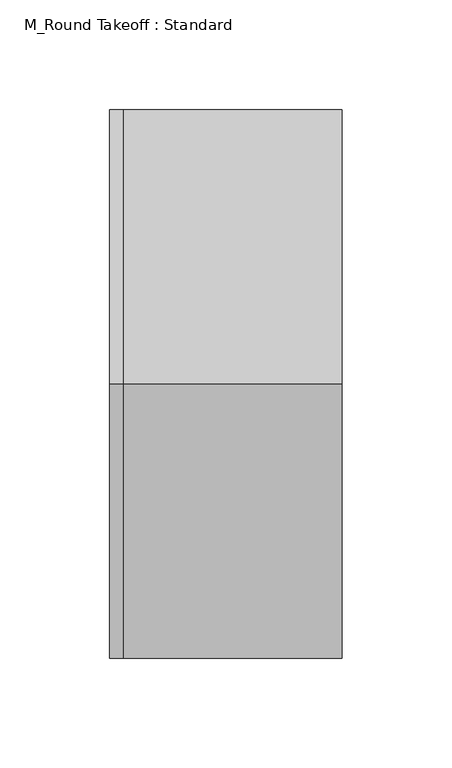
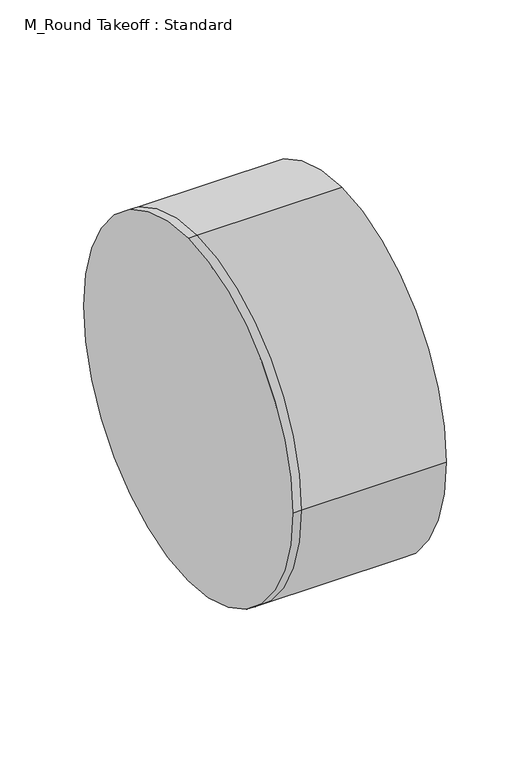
"""IFC4 building model written with IfcOpenShell, lengths in millimetres: duct fitting geometry, M_Round Takeoff : Standard."""

from ifc_helpers import new_model, si_unit, frame, origin, place, context, project, spatial, circle_curve, source, transform, mapped, element, save
from ifc_brep_helpers import plane_surface, cylinder_surface, advanced_brep


def m_round_takeoff_standard_ce92a222(model_context):
    return source(origin(), model_context, "Body", "AdvancedBrep", [
        advanced_brep(
        [(-6.096, 0.0, 125.0), (-6.096, 125.0, 0.0), (-6.096, 0.0, -125.0), (-6.096, -125.0, 0.0), (0.0, 0.0, 125.0), (0.0, 125.0, 0.0), (0.0, 0.0, -125.0), (0.0, -125.0, 0.0), (100.0, 0.0, 125.0), (100.0, -125.0, 0.0), (100.0, 0.0, -125.0), (100.0, 125.0, 0.0)],
        [
            (0, 1, circle_curve(frame((-6.096, 0.0, 0.0), z_axis=(-1.0, 0.0, 0.0), x_axis=(0.0, 1.0, 0.0)), 125.0)),
            (1, 2, circle_curve(frame((-6.096, 0.0, 0.0), z_axis=(-1.0, 0.0, 0.0), x_axis=(0.0, 1.0, 0.0)), 125.0)),
            (2, 3, circle_curve(frame((-6.096, 0.0, 0.0), z_axis=(-1.0, 0.0, 0.0), x_axis=(0.0, 1.0, 0.0)), 125.0)),
            (3, 0, circle_curve(frame((-6.096, 0.0, 0.0), z_axis=(-1.0, 0.0, 0.0), x_axis=(0.0, 1.0, 0.0)), 125.0)),
            (0, 4),
            (4, 5, circle_curve(frame((0.0, 0.0, 0.0), z_axis=(-1.0, 0.0, 0.0), x_axis=(0.0, 1.0, 0.0)), 125.0)),
            (5, 1),
            (5, 6, circle_curve(frame((0.0, 0.0, 0.0), z_axis=(-1.0, 0.0, 0.0), x_axis=(0.0, 1.0, 0.0)), 125.0)),
            (6, 2),
            (6, 7, circle_curve(frame((0.0, 0.0, 0.0), z_axis=(-1.0, 0.0, 0.0), x_axis=(0.0, 1.0, 0.0)), 125.0)),
            (7, 3),
            (7, 4, circle_curve(frame((0.0, 0.0, 0.0), z_axis=(-1.0, 0.0, 0.0), x_axis=(0.0, 1.0, 0.0)), 125.0)),
            (8, 9, circle_curve(frame((100.0, 0.0, 0.0), z_axis=(1.0, 0.0, 0.0), x_axis=(0.0, 1.0, 0.0)), 125.0)),
            (9, 10, circle_curve(frame((100.0, 0.0, 0.0), z_axis=(1.0, 0.0, 0.0), x_axis=(0.0, 1.0, 0.0)), 125.0)),
            (10, 11, circle_curve(frame((100.0, 0.0, 0.0), z_axis=(1.0, 0.0, 0.0), x_axis=(0.0, 1.0, 0.0)), 125.0)),
            (11, 8, circle_curve(frame((100.0, 0.0, 0.0), z_axis=(1.0, 0.0, 0.0), x_axis=(0.0, 1.0, 0.0)), 125.0)),
            (11, 5),
            (4, 8),
            (10, 6),
            (9, 7),
        ],
        [
            plane_surface(frame((-6.096, 0.0, 0.0), z_axis=(-1.0, 0.0, 0.0), x_axis=(0.0, 0.0, 1.0))),
            cylinder_surface(frame((-6.096, 0.0, 0.0), z_axis=(-1.0, 0.0, 0.0), x_axis=(0.0, 1.0, 0.0)), 125.0),
            plane_surface(frame((100.0, 0.0, 0.0), z_axis=(1.0, 0.0, 0.0), x_axis=(0.0, 0.0, 1.0))),
            cylinder_surface(frame((0.0, 0.0, 0.0), z_axis=(-1.0, 0.0, 0.0), x_axis=(0.0, 1.0, 0.0)), 125.0),
        ],
        [
            (0, [[1, 2, 3, 4]]),
            (1, [[-1, 5, 6, 7]]),
            (1, [[-2, -7, 8, 9]]),
            (1, [[-3, -9, 10, 11]]),
            (1, [[-4, -11, 12, -5]]),
            (2, [[13, 14, 15, 16]]),
            (3, [[-16, 17, -6, 18]]),
            (3, [[-15, 19, -8, -17]]),
            (3, [[-14, 20, -10, -19]]),
            (3, [[-13, -18, -12, -20]]),
        ],
    ),
        advanced_brep(
        [(100.0, 0.0, 125.0), (100.0, -125.0, 0.0), (100.0, 0.0, -125.0), (100.0, 125.0, 0.0), (0.0, 125.0, 0.0), (0.0, 0.0, 125.0), (0.0, 0.0, -125.0), (0.0, -125.0, 0.0), (-6.096, 0.0, 125.0), (-6.096, 125.0, 0.0), (-6.096, 0.0, -125.0), (-6.096, -125.0, 0.0)],
        [
            (0, 1, circle_curve(frame((100.0, 0.0, 0.0), z_axis=(1.0, 0.0, 0.0), x_axis=(0.0, 1.0, 0.0)), 125.0)),
            (1, 2, circle_curve(frame((100.0, 0.0, 0.0), z_axis=(1.0, 0.0, 0.0), x_axis=(0.0, 1.0, 0.0)), 125.0)),
            (2, 3, circle_curve(frame((100.0, 0.0, 0.0), z_axis=(1.0, 0.0, 0.0), x_axis=(0.0, 1.0, 0.0)), 125.0)),
            (3, 0, circle_curve(frame((100.0, 0.0, 0.0), z_axis=(1.0, 0.0, 0.0), x_axis=(0.0, 1.0, 0.0)), 125.0)),
            (3, 4),
            (4, 5, circle_curve(frame((0.0, 0.0, 0.0), z_axis=(1.0, 0.0, 0.0), x_axis=(0.0, 1.0, 0.0)), 125.0)),
            (5, 0),
            (2, 6),
            (6, 4, circle_curve(frame((0.0, 0.0, 0.0), z_axis=(1.0, 0.0, 0.0), x_axis=(0.0, 1.0, 0.0)), 125.0)),
            (1, 7),
            (7, 6, circle_curve(frame((0.0, 0.0, 0.0), z_axis=(1.0, 0.0, 0.0), x_axis=(0.0, 1.0, 0.0)), 125.0)),
            (5, 7, circle_curve(frame((0.0, 0.0, 0.0), z_axis=(1.0, 0.0, 0.0), x_axis=(0.0, 1.0, 0.0)), 125.0)),
            (8, 9, circle_curve(frame((-6.096, 0.0, 0.0), z_axis=(-1.0, 0.0, 0.0), x_axis=(0.0, 1.0, 0.0)), 125.0)),
            (9, 10, circle_curve(frame((-6.096, 0.0, 0.0), z_axis=(-1.0, 0.0, 0.0), x_axis=(0.0, 1.0, 0.0)), 125.0)),
            (10, 11, circle_curve(frame((-6.096, 0.0, 0.0), z_axis=(-1.0, 0.0, 0.0), x_axis=(0.0, 1.0, 0.0)), 125.0)),
            (11, 8, circle_curve(frame((-6.096, 0.0, 0.0), z_axis=(-1.0, 0.0, 0.0), x_axis=(0.0, 1.0, 0.0)), 125.0)),
            (8, 5),
            (4, 9),
            (6, 10),
            (7, 11),
        ],
        [
            plane_surface(frame((100.0, 0.0, 0.0), z_axis=(1.0, 0.0, 0.0), x_axis=(0.0, 0.0, 1.0))),
            cylinder_surface(frame((0.0, 0.0, 0.0), z_axis=(-1.0, 0.0, 0.0), x_axis=(0.0, 1.0, 0.0)), 125.0),
            plane_surface(frame((-6.096, 0.0, 0.0), z_axis=(-1.0, 0.0, 0.0), x_axis=(0.0, 0.0, 1.0))),
            cylinder_surface(frame((-6.096, 0.0, 0.0), z_axis=(-1.0, 0.0, 0.0), x_axis=(0.0, 1.0, 0.0)), 125.0),
        ],
        [
            (0, [[1, 2, 3, 4]]),
            (1, [[-4, 5, 6, 7]]),
            (1, [[-3, 8, 9, -5]]),
            (1, [[-2, 10, 11, -8]]),
            (1, [[-1, -7, 12, -10]]),
            (2, [[13, 14, 15, 16]]),
            (3, [[-13, 17, -6, 18]]),
            (3, [[-14, -18, -9, 19]]),
            (3, [[-15, -19, -11, 20]]),
            (3, [[-16, -20, -12, -17]]),
        ],
    ),
        advanced_brep(
        [(-6.096, 0.0, 125.0), (-6.096, 125.0, 0.0), (-6.096, 0.0, -125.0), (-6.096, -125.0, 0.0), (0.0, 0.0, 125.0), (0.0, 125.0, 0.0), (0.0, 0.0, -125.0), (0.0, -125.0, 0.0), (100.0, 0.0, 125.0), (100.0, -125.0, 0.0), (100.0, 0.0, -125.0), (100.0, 125.0, 0.0)],
        [
            (0, 1, circle_curve(frame((-6.096, 0.0, 0.0), z_axis=(-1.0, 0.0, 0.0), x_axis=(0.0, 1.0, 0.0)), 125.0)),
            (1, 2, circle_curve(frame((-6.096, 0.0, 0.0), z_axis=(-1.0, 0.0, 0.0), x_axis=(0.0, 1.0, 0.0)), 125.0)),
            (2, 3, circle_curve(frame((-6.096, 0.0, 0.0), z_axis=(-1.0, 0.0, 0.0), x_axis=(0.0, 1.0, 0.0)), 125.0)),
            (3, 0, circle_curve(frame((-6.096, 0.0, 0.0), z_axis=(-1.0, 0.0, 0.0), x_axis=(0.0, 1.0, 0.0)), 125.0)),
            (0, 4),
            (4, 5, circle_curve(frame((0.0, 0.0, 0.0), z_axis=(-1.0, 0.0, 0.0), x_axis=(0.0, 1.0, 0.0)), 125.0)),
            (5, 1),
            (5, 6, circle_curve(frame((0.0, 0.0, 0.0), z_axis=(-1.0, 0.0, 0.0), x_axis=(0.0, 1.0, 0.0)), 125.0)),
            (6, 2),
            (6, 7, circle_curve(frame((0.0, 0.0, 0.0), z_axis=(-1.0, 0.0, 0.0), x_axis=(0.0, 1.0, 0.0)), 125.0)),
            (7, 3),
            (7, 4, circle_curve(frame((0.0, 0.0, 0.0), z_axis=(-1.0, 0.0, 0.0), x_axis=(0.0, 1.0, 0.0)), 125.0)),
            (8, 9, circle_curve(frame((100.0, 0.0, 0.0), z_axis=(1.0, 0.0, 0.0), x_axis=(0.0, 1.0, 0.0)), 125.0)),
            (9, 10, circle_curve(frame((100.0, 0.0, 0.0), z_axis=(1.0, 0.0, 0.0), x_axis=(0.0, 1.0, 0.0)), 125.0)),
            (10, 11, circle_curve(frame((100.0, 0.0, 0.0), z_axis=(1.0, 0.0, 0.0), x_axis=(0.0, 1.0, 0.0)), 125.0)),
            (11, 8, circle_curve(frame((100.0, 0.0, 0.0), z_axis=(1.0, 0.0, 0.0), x_axis=(0.0, 1.0, 0.0)), 125.0)),
            (11, 5),
            (4, 8),
            (10, 6),
            (9, 7),
        ],
        [
            plane_surface(frame((-6.096, 0.0, 0.0), z_axis=(-1.0, 0.0, 0.0), x_axis=(0.0, 0.0, 1.0))),
            cylinder_surface(frame((-6.096, 0.0, 0.0), z_axis=(-1.0, 0.0, 0.0), x_axis=(0.0, 1.0, 0.0)), 125.0),
            plane_surface(frame((100.0, 0.0, 0.0), z_axis=(1.0, 0.0, 0.0), x_axis=(0.0, 0.0, 1.0))),
            cylinder_surface(frame((0.0, 0.0, 0.0), z_axis=(-1.0, 0.0, 0.0), x_axis=(0.0, 1.0, 0.0)), 125.0),
        ],
        [
            (0, [[1, 2, 3, 4]]),
            (1, [[-1, 5, 6, 7]]),
            (1, [[-2, -7, 8, 9]]),
            (1, [[-3, -9, 10, 11]]),
            (1, [[-4, -11, 12, -5]]),
            (2, [[13, 14, 15, 16]]),
            (3, [[-16, 17, -6, 18]]),
            (3, [[-15, 19, -8, -17]]),
            (3, [[-14, 20, -10, -19]]),
            (3, [[-13, -18, -12, -20]]),
        ],
    ),
    ])


if __name__ == "__main__":
    model = new_model("IFC4")
    model_context = context("Model", 3, world=origin())
    ifc_project = project(units=[si_unit("LENGTHUNIT", "METRE", prefix="MILLI")], contexts=[model_context])
    site = spatial("IfcSite", under=ifc_project)
    building = spatial("IfcBuilding", under=site)
    placement = place(None, origin())
    m_round_takeoff_standard_shape = m_round_takeoff_standard_ce92a222(model_context)
    element("IfcDuctFitting", 1, ObjectType="M_Round Takeoff : Standard", at=placement, inside=building, context=model_context, shape_type="MappedRepresentation", body=[
        mapped(m_round_takeoff_standard_shape, transform((0.0, 0.0, 0.0), x_axis=(1.0, 0.0, 0.0), y_axis=(0.0, 1.0, 0.0), z_axis=(0.0, 0.0, 1.0))),
    ])
    save(model, "model.ifc")
